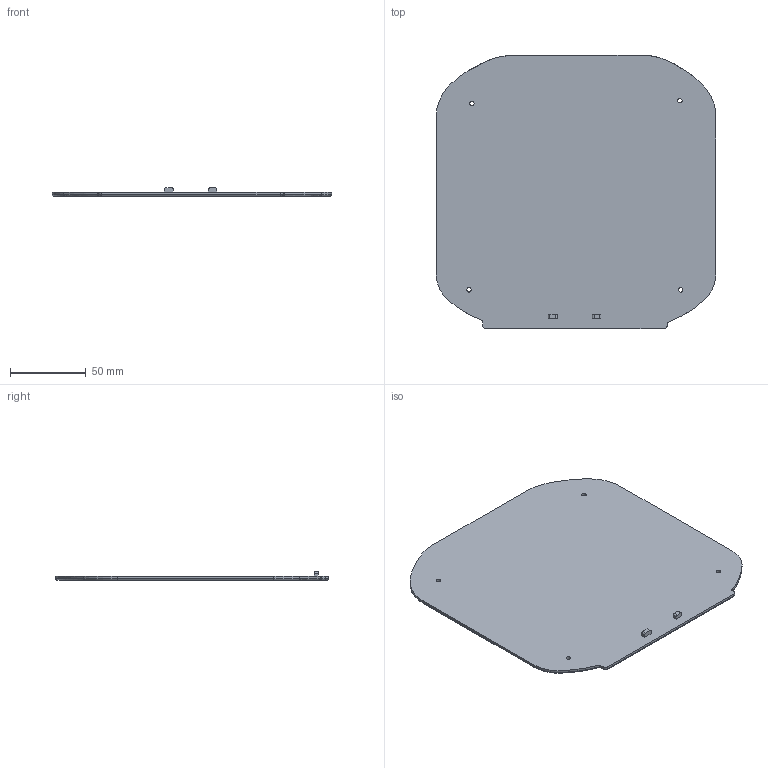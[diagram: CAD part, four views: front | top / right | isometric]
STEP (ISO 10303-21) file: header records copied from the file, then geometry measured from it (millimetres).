
FILE_DESCRIPTION(/* description */ (''),/* implementation_level */ '2;1');
FILE_NAME(/* name */ 'women base modify part B.stp',/* time_stamp */ '2025-12-02T15:24:29+09:00',/* author */ (''),/* organization */ (''),/* preprocessor_version */ 'ST-DEVELOPER v11',/* originating_system */ 'SIEMENS PLM Software NX 7.5',/* authorisation */ '');
FILE_SCHEMA (('CONFIG_CONTROL_DESIGN'));
Length unit declared in the file: millimetre
Products named in the file (1): gyunA916mqik
Bounding box: 184.4 x 179.9 x 5.4 mm (x, y, z)
Volume: 78131.2 mm3; surface area: 64083.5 mm2
Topology: 1 solids, 1 shells, 56 faces, 138 edges, 86 vertices
Faces by surface type: cylinder 22, plane 18, bspline 6, torus 6, extrusion 4
Full cylindrical faces by diameter (mm): 2.9 x4
Entity records: 1920 total; most frequent: CARTESIAN_POINT 508, DIRECTION 280, ORIENTED_EDGE 268, EDGE_CURVE 134, AXIS2_PLACEMENT_3D 106, VERTEX_POINT 86, EDGE_LOOP 70, VECTOR 68
